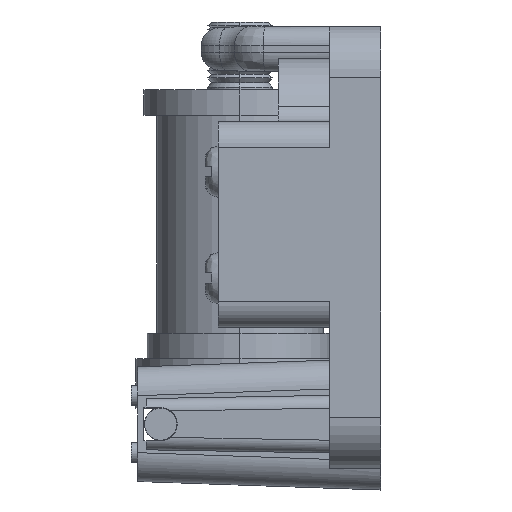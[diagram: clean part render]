
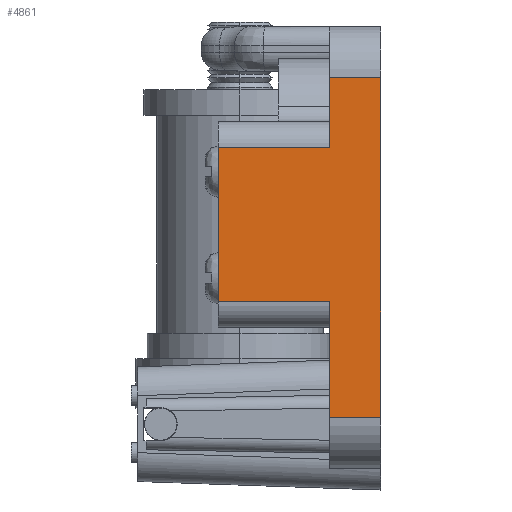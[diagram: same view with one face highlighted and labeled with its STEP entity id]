
A CAD part, left-side view. The second image highlights one B-rep face of the part: STEP entity #4861.
In plain terms, the highlighted planar face has unit normal (-1, 0, 0).
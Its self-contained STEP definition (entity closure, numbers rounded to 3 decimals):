
#238=DIRECTION('',(0.,0.,1.));
#239=VECTOR('',#238,12.05);
#240=CARTESIAN_POINT('',(-22.35,12.7,-4.25));
#241=LINE('',#240,#239);
#542=DIRECTION('',(0.,-1.,0.));
#543=VECTOR('',#542,8.7);
#544=CARTESIAN_POINT('',(-22.35,12.7,-4.25));
#545=LINE('',#544,#543);
#546=DIRECTION('',(0.,-1.,0.));
#547=VECTOR('',#546,8.7);
#548=CARTESIAN_POINT('',(-22.35,12.7,7.8));
#549=LINE('',#548,#547);
#550=DIRECTION('',(0.,-1.,0.));
#551=VECTOR('',#550,4.);
#552=CARTESIAN_POINT('',(-22.35,4.,13.25));
#553=LINE('',#552,#551);
#554=DIRECTION('',(0.,-1.,0.));
#555=VECTOR('',#554,4.);
#556=CARTESIAN_POINT('',(-22.35,4.,-13.25));
#557=LINE('',#556,#555);
#964=DIRECTION('',(0.,0.,1.));
#965=VECTOR('',#964,26.5);
#966=CARTESIAN_POINT('',(-22.35,0.,-13.25));
#967=LINE('',#966,#965);
#1036=DIRECTION('',(0.,0.,-1.));
#1037=VECTOR('',#1036,9.);
#1038=CARTESIAN_POINT('',(-22.35,4.,-4.25));
#1039=LINE('',#1038,#1037);
#1053=DIRECTION('',(0.,0.,-1.));
#1054=VECTOR('',#1053,5.45);
#1055=CARTESIAN_POINT('',(-22.35,4.,13.25));
#1056=LINE('',#1055,#1054);
#3231=CARTESIAN_POINT('',(-22.35,0.,13.25));
#3233=VERTEX_POINT('',#3231);
#3234=CARTESIAN_POINT('',(-22.35,4.,13.25));
#3235=VERTEX_POINT('',#3234);
#3238=CARTESIAN_POINT('',(-22.35,0.,-13.25));
#3240=VERTEX_POINT('',#3238);
#3244=CARTESIAN_POINT('',(-22.35,4.,-13.25));
#3245=VERTEX_POINT('',#3244);
#3534=CARTESIAN_POINT('',(-22.35,12.7,-4.25));
#3535=VERTEX_POINT('',#3534);
#3536=CARTESIAN_POINT('',(-22.35,4.,-4.25));
#3537=VERTEX_POINT('',#3536);
#3538=CARTESIAN_POINT('',(-22.35,12.7,7.8));
#3539=CARTESIAN_POINT('',(-22.35,4.,7.8));
#3540=VERTEX_POINT('',#3538);
#3541=VERTEX_POINT('',#3539);
#4840=CARTESIAN_POINT('',(-22.35,0.,-17.25));
#4841=DIRECTION('',(-1.,0.,0.));
#4842=DIRECTION('',(0.,0.,1.));
#4843=AXIS2_PLACEMENT_3D('',#4840,#4841,#4842);
#4844=PLANE('',#4843);
#4845=ORIENTED_EDGE('',*,*,#4833,.F.);
#4846=ORIENTED_EDGE('',*,*,#4524,.T.);
#4848=ORIENTED_EDGE('',*,*,#4847,.T.);
#4850=ORIENTED_EDGE('',*,*,#4849,.F.);
#4852=ORIENTED_EDGE('',*,*,#4851,.T.);
#4854=ORIENTED_EDGE('',*,*,#4853,.F.);
#4856=ORIENTED_EDGE('',*,*,#4855,.F.);
#4858=ORIENTED_EDGE('',*,*,#4857,.F.);
#4859=EDGE_LOOP('',(#4845,#4846,#4848,#4850,#4852,#4854,#4856,#4858));
#4860=FACE_OUTER_BOUND('',#4859,.F.);
#4524=EDGE_CURVE('',#3535,#3540,#241,.T.);
#4833=EDGE_CURVE('',#3535,#3537,#545,.T.);
#4847=EDGE_CURVE('',#3540,#3541,#549,.T.);
#4849=EDGE_CURVE('',#3235,#3541,#1056,.T.);
#4851=EDGE_CURVE('',#3235,#3233,#553,.T.);
#4853=EDGE_CURVE('',#3240,#3233,#967,.T.);
#4855=EDGE_CURVE('',#3245,#3240,#557,.T.);
#4857=EDGE_CURVE('',#3537,#3245,#1039,.T.);
#4861=ADVANCED_FACE('',(#4860),#4844,.T.);
